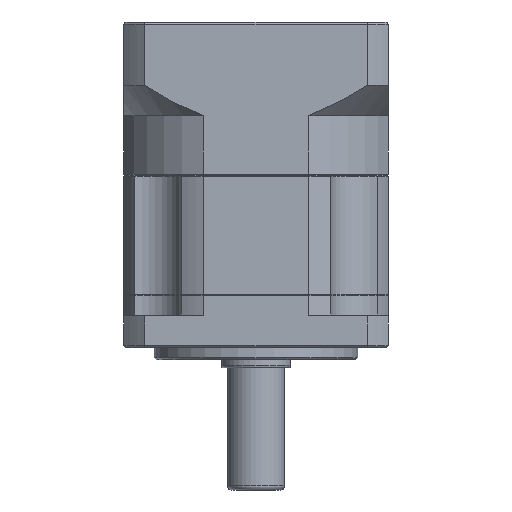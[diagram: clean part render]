
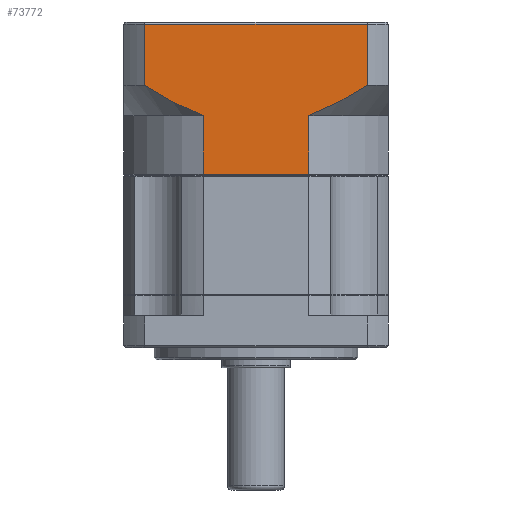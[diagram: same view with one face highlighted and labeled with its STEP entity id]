
A CAD part, front view. The second image highlights one B-rep face of the part: STEP entity #73772.
In plain terms, the highlighted planar face has unit normal (0, -1, 0).
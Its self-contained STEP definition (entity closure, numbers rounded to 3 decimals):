
#1400 = CARTESIAN_POINT ( 'NONE',  ( -34.424, -34.19, 116.239 ) ) ;
#3071 = VERTEX_POINT ( 'NONE', #12043 ) ;
#4670 = CARTESIAN_POINT ( 'NONE',  ( 0.141, -34.19, 134.646 ) ) ;
#6945 = CARTESIAN_POINT ( 'NONE',  ( -40.655, -34.19, 133.395 ) ) ;
#8560 = EDGE_CURVE ( 'NONE', #109128, #87756, #18938, .T. ) ;
#9028 = FACE_OUTER_BOUND ( 'NONE', #15314, .T. ) ;
#9531 = B_SPLINE_CURVE_WITH_KNOTS ( 'NONE', 3,
 ( #14562, #70720, #31499, #97523, #4670, #14157, #97925, #60001 ),
 .UNSPECIFIED., .F., .F.,
 ( 4, 2, 2, 4 ),
 ( 0.059, 0.063, 0.067, 0.075 ),
 .UNSPECIFIED. ) ;
#10084 = CARTESIAN_POINT ( 'NONE',  ( 5.953, -34.19, 135.65 ) ) ;
#12043 = CARTESIAN_POINT ( 'NONE',  ( -8.443, -34.19, 130.65 ) ) ;
#14157 = CARTESIAN_POINT ( 'NONE',  ( -3.453, -34.19, 132.737 ) ) ;
#14562 = CARTESIAN_POINT ( 'NONE',  ( 5.953, -34.19, 138.15 ) ) ;
#15096 = EDGE_CURVE ( 'NONE', #39745, #15526, #50753, .T. ) ;
#15314 = EDGE_LOOP ( 'NONE', ( #48440, #66797, #52970, #57215, #47422, #77455, #110683, #48588 ) ) ;
#15526 = VERTEX_POINT ( 'NONE', #41239 ) ;
#16081 = CARTESIAN_POINT ( 'NONE',  ( -46.551, -34.19, 136.688 ) ) ;
#17149 = CARTESIAN_POINT ( 'NONE',  ( -34.424, -34.19, 130.65 ) ) ;
#18938 = LINE ( 'NONE', #101769, #120710 ) ;
#25938 = EDGE_CURVE ( 'NONE', #15526, #77973, #119786, .T. ) ;
#26550 = VERTEX_POINT ( 'NONE', #120324 ) ;
#31499 = CARTESIAN_POINT ( 'NONE',  ( 3.663, -34.19, 136.701 ) ) ;
#34491 = DIRECTION ( 'NONE',  ( -1., 0., 0. ) ) ;
#35095 = CARTESIAN_POINT ( 'NONE',  ( -35.705, -34.19, 131.141 ) ) ;
#37316 = AXIS2_PLACEMENT_3D ( 'NONE', #77166, #39671, #77962 ) ;
#39671 = DIRECTION ( 'NONE',  ( 0., 1., 0. ) ) ;
#39745 = VERTEX_POINT ( 'NONE', #51254 ) ;
#41239 = CARTESIAN_POINT ( 'NONE',  ( -48.82, -34.19, 138.15 ) ) ;
#43509 = VECTOR ( 'NONE', #66275, 1000. ) ;
#44438 = CARTESIAN_POINT ( 'NONE',  ( -48.82, -34.19, 153.15 ) ) ;
#44894 = DIRECTION ( 'NONE',  ( 0., 0., 1. ) ) ;
#46882 = CARTESIAN_POINT ( 'NONE',  ( -48.82, -34.19, 135.65 ) ) ;
#47422 = ORIENTED_EDGE ( 'NONE', *, *, #54586, .F. ) ;
#48440 = ORIENTED_EDGE ( 'NONE', *, *, #72989, .F. ) ;
#48552 = VERTEX_POINT ( 'NONE', #87514 ) ;
#48588 = ORIENTED_EDGE ( 'NONE', *, *, #90529, .F. ) ;
#50753 = B_SPLINE_CURVE_WITH_KNOTS ( 'NONE', 3,
 ( #73443, #102731, #35095, #74239, #55307, #64756, #6945, #121189, #16081, #64344 ),
 .UNSPECIFIED., .F., .F.,
 ( 4, 2, 2, 2, 4 ),
 ( 0.101, 0.104, 0.106, 0.11, 0.118 ),
 .UNSPECIFIED. ) ;
#51254 = CARTESIAN_POINT ( 'NONE',  ( -34.424, -34.19, 130.65 ) ) ;
#52970 = ORIENTED_EDGE ( 'NONE', *, *, #25938, .F. ) ;
#53678 = DIRECTION ( 'NONE',  ( 0., 0., -1. ) ) ;
#54586 = EDGE_CURVE ( 'NONE', #109128, #39745, #100729, .T. ) ;
#54705 = VECTOR ( 'NONE', #53678, 1000. ) ;
#55307 = CARTESIAN_POINT ( 'NONE',  ( -37.59, -34.19, 131.94 ) ) ;
#57215 = ORIENTED_EDGE ( 'NONE', *, *, #15096, .F. ) ;
#59056 = LINE ( 'NONE', #100240, #54705 ) ;
#60001 = CARTESIAN_POINT ( 'NONE',  ( -8.443, -34.19, 130.65 ) ) ;
#60148 = LINE ( 'NONE', #91038, #103024 ) ;
#64344 = CARTESIAN_POINT ( 'NONE',  ( -48.82, -34.19, 138.15 ) ) ;
#64756 = CARTESIAN_POINT ( 'NONE',  ( -39.443, -34.19, 132.79 ) ) ;
#66275 = DIRECTION ( 'NONE',  ( 0., 0., -1. ) ) ;
#66797 = ORIENTED_EDGE ( 'NONE', *, *, #92134, .T. ) ;
#67672 = PLANE ( 'NONE',  #37316 ) ;
#68552 = LINE ( 'NONE', #10084, #43509 ) ;
#70720 = CARTESIAN_POINT ( 'NONE',  ( 4.814, -34.19, 137.416 ) ) ;
#71469 = CARTESIAN_POINT ( 'NONE',  ( -8.443, -34.19, 116.239 ) ) ;
#72989 = EDGE_CURVE ( 'NONE', #48552, #26550, #68552, .T. ) ;
#73443 = CARTESIAN_POINT ( 'NONE',  ( -34.424, -34.19, 130.65 ) ) ;
#73772 = ADVANCED_FACE ( 'NONE', ( #9028 ), #67672, .F. ) ;
#74239 = CARTESIAN_POINT ( 'NONE',  ( -36.966, -34.19, 131.666 ) ) ;
#77166 = CARTESIAN_POINT ( 'NONE',  ( 11.066, -34.19, 153.65 ) ) ;
#77455 = ORIENTED_EDGE ( 'NONE', *, *, #8560, .T. ) ;
#77962 = DIRECTION ( 'NONE',  ( -1., 0., 0. ) ) ;
#77973 = VERTEX_POINT ( 'NONE', #44438 ) ;
#87514 = CARTESIAN_POINT ( 'NONE',  ( 5.953, -34.19, 153.15 ) ) ;
#87756 = VERTEX_POINT ( 'NONE', #71469 ) ;
#90529 = EDGE_CURVE ( 'NONE', #26550, #3071, #9531, .T. ) ;
#91038 = CARTESIAN_POINT ( 'NONE',  ( -48.82, -34.19, 153.15 ) ) ;
#92134 = EDGE_CURVE ( 'NONE', #48552, #77973, #60148, .T. ) ;
#92677 = DIRECTION ( 'NONE',  ( 1., 0., 0. ) ) ;
#94769 = VECTOR ( 'NONE', #122243, 1000. ) ;
#97523 = CARTESIAN_POINT ( 'NONE',  ( 1.327, -34.19, 135.316 ) ) ;
#97925 = CARTESIAN_POINT ( 'NONE',  ( -5.904, -34.19, 131.592 ) ) ;
#100240 = CARTESIAN_POINT ( 'NONE',  ( -8.443, -34.19, 130.65 ) ) ;
#100729 = LINE ( 'NONE', #17149, #112518 ) ;
#101769 = CARTESIAN_POINT ( 'NONE',  ( 11.066, -34.19, 116.239 ) ) ;
#102731 = CARTESIAN_POINT ( 'NONE',  ( -35.067, -34.19, 130.889 ) ) ;
#103024 = VECTOR ( 'NONE', #34491, 1000. ) ;
#109128 = VERTEX_POINT ( 'NONE', #1400 ) ;
#110683 = ORIENTED_EDGE ( 'NONE', *, *, #111236, .F. ) ;
#111236 = EDGE_CURVE ( 'NONE', #3071, #87756, #59056, .T. ) ;
#112518 = VECTOR ( 'NONE', #44894, 1000. ) ;
#119786 = LINE ( 'NONE', #46882, #94769 ) ;
#120324 = CARTESIAN_POINT ( 'NONE',  ( 5.953, -34.19, 138.15 ) ) ;
#120710 = VECTOR ( 'NONE', #92677, 1000. ) ;
#121189 = CARTESIAN_POINT ( 'NONE',  ( -44.236, -34.19, 135.3 ) ) ;
#122243 = DIRECTION ( 'NONE',  ( 0., 0., 1. ) ) ;
